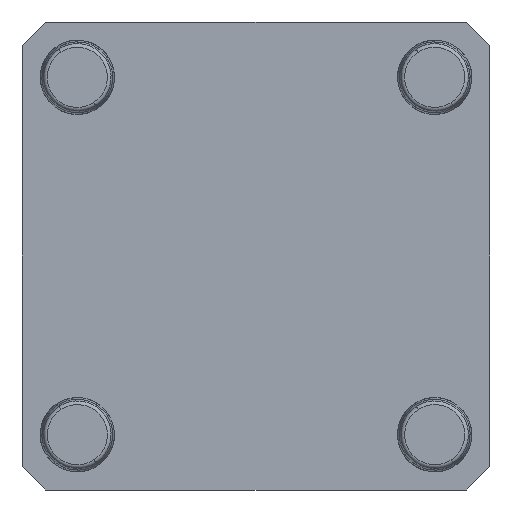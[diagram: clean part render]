
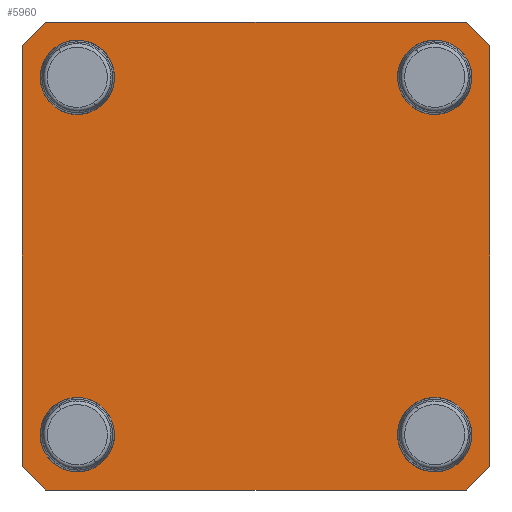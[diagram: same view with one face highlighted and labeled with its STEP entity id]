
A CAD part, front view. The second image highlights one B-rep face of the part: STEP entity #5960.
In plain terms, the highlighted planar face has unit normal (0, -1, 0).
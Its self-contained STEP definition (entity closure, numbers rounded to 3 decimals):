
#109 = CIRCLE ( 'NONE', #9183, 8.01 ) ;
#212 = VERTEX_POINT ( 'NONE', #5801 ) ;
#226 = EDGE_CURVE ( 'NONE', #8467, #7732, #4253, .T. ) ;
#416 = CARTESIAN_POINT ( 'NONE',  ( -48., 0., -56.01 ) ) ;
#462 = DIRECTION ( 'NONE',  ( 0., -1., 0. ) ) ;
#493 = VERTEX_POINT ( 'NONE', #6909 ) ;
#505 = AXIS2_PLACEMENT_3D ( 'NONE', #1493, #5432, #3940 ) ;
#558 = DIRECTION ( 'NONE',  ( 0., -1., 0. ) ) ;
#719 = EDGE_CURVE ( 'NONE', #493, #4081, #4240, .T. ) ;
#828 = DIRECTION ( 'NONE',  ( 0., -1., 0. ) ) ;
#970 = DIRECTION ( 'NONE',  ( 0., 0., -1. ) ) ;
#1001 = CARTESIAN_POINT ( 'NONE',  ( -62.865, 0., -56.515 ) ) ;
#1058 = ORIENTED_EDGE ( 'NONE', *, *, #4802, .F. ) ;
#1077 = ORIENTED_EDGE ( 'NONE', *, *, #2100, .F. ) ;
#1287 = DIRECTION ( 'NONE',  ( 0., 0., -1. ) ) ;
#1310 = VECTOR ( 'NONE', #3557, 1000. ) ;
#1449 = EDGE_CURVE ( 'NONE', #4081, #493, #8781, .T. ) ;
#1462 = AXIS2_PLACEMENT_3D ( 'NONE', #4750, #828, #3197 ) ;
#1493 = CARTESIAN_POINT ( 'NONE',  ( 48., 0., -48. ) ) ;
#1625 = CARTESIAN_POINT ( 'NONE',  ( 56.515, 0., -62.865 ) ) ;
#1682 = AXIS2_PLACEMENT_3D ( 'NONE', #5135, #558, #5108 ) ;
#1786 = DIRECTION ( 'NONE',  ( -0.707, 0., -0.707 ) ) ;
#1811 = DIRECTION ( 'NONE',  ( 0., 0., 1. ) ) ;
#1859 = PLANE ( 'NONE',  #5124 ) ;
#1861 = ORIENTED_EDGE ( 'NONE', *, *, #2886, .T. ) ;
#1959 = EDGE_CURVE ( 'NONE', #212, #5696, #7893, .T. ) ;
#2021 = CARTESIAN_POINT ( 'NONE',  ( -62.865, 0., -62.865 ) ) ;
#2058 = CARTESIAN_POINT ( 'NONE',  ( 48., 0., -56.01 ) ) ;
#2100 = EDGE_CURVE ( 'NONE', #2201, #8472, #3025, .T. ) ;
#2201 = VERTEX_POINT ( 'NONE', #416 ) ;
#2212 = LINE ( 'NONE', #7332, #6536 ) ;
#2242 = ORIENTED_EDGE ( 'NONE', *, *, #2472, .T. ) ;
#2312 = VECTOR ( 'NONE', #8825, 1000. ) ;
#2408 = LINE ( 'NONE', #2760, #1310 ) ;
#2472 = EDGE_CURVE ( 'NONE', #212, #8004, #3017, .T. ) ;
#2525 = DIRECTION ( 'NONE',  ( 0., -1., 0. ) ) ;
#2760 = CARTESIAN_POINT ( 'NONE',  ( -62.865, 0., -62.865 ) ) ;
#2849 = EDGE_CURVE ( 'NONE', #3459, #4962, #3278, .T. ) ;
#2884 = VECTOR ( 'NONE', #1786, 1000. ) ;
#2886 = EDGE_CURVE ( 'NONE', #3459, #5696, #7092, .T. ) ;
#3017 = LINE ( 'NONE', #1001, #2312 ) ;
#3019 = ORIENTED_EDGE ( 'NONE', *, *, #5498, .F. ) ;
#3025 = CIRCLE ( 'NONE', #7100, 8.01 ) ;
#3129 = CARTESIAN_POINT ( 'NONE',  ( -48., 0., 56.01 ) ) ;
#3197 = DIRECTION ( 'NONE',  ( 0., 0., 1. ) ) ;
#3222 = EDGE_LOOP ( 'NONE', ( #6141, #7055 ) ) ;
#3278 = LINE ( 'NONE', #8805, #9024 ) ;
#3334 = VECTOR ( 'NONE', #970, 1000. ) ;
#3459 = VERTEX_POINT ( 'NONE', #3976 ) ;
#3541 = FACE_BOUND ( 'NONE', #5851, .T. ) ;
#3557 = DIRECTION ( 'NONE',  ( -1., 0., 0. ) ) ;
#3566 = CARTESIAN_POINT ( 'NONE',  ( 62.865, 0., 56.515 ) ) ;
#3828 = ORIENTED_EDGE ( 'NONE', *, *, #226, .T. ) ;
#3940 = DIRECTION ( 'NONE',  ( 0., 0., -1. ) ) ;
#3976 = CARTESIAN_POINT ( 'NONE',  ( -56.515, 0., 62.865 ) ) ;
#4010 = EDGE_CURVE ( 'NONE', #5033, #4962, #2212, .T. ) ;
#4081 = VERTEX_POINT ( 'NONE', #2058 ) ;
#4154 = CARTESIAN_POINT ( 'NONE',  ( 48., 0., 48. ) ) ;
#4236 = CARTESIAN_POINT ( 'NONE',  ( 62.865, 0., -56.515 ) ) ;
#4240 = CIRCLE ( 'NONE', #5599, 8.01 ) ;
#4253 = LINE ( 'NONE', #7250, #5796 ) ;
#4379 = CARTESIAN_POINT ( 'NONE',  ( 48., 0., -48. ) ) ;
#4397 = FACE_BOUND ( 'NONE', #3222, .T. ) ;
#4439 = DIRECTION ( 'NONE',  ( 0., 0., 1. ) ) ;
#4495 = EDGE_LOOP ( 'NONE', ( #5665, #2242, #7600, #3828, #9307, #6848, #4904, #1861 ) ) ;
#4592 = EDGE_CURVE ( 'NONE', #8472, #2201, #9667, .T. ) ;
#4743 = EDGE_CURVE ( 'NONE', #5033, #7732, #9686, .T. ) ;
#4750 = CARTESIAN_POINT ( 'NONE',  ( -48., 0., -48. ) ) ;
#4802 = EDGE_CURVE ( 'NONE', #5772, #6608, #8720, .T. ) ;
#4836 = CARTESIAN_POINT ( 'NONE',  ( -48., 0., -39.99 ) ) ;
#4859 = CARTESIAN_POINT ( 'NONE',  ( -48., 0., -48. ) ) ;
#4904 = ORIENTED_EDGE ( 'NONE', *, *, #2849, .F. ) ;
#4962 = VERTEX_POINT ( 'NONE', #5779 ) ;
#5015 = CARTESIAN_POINT ( 'NONE',  ( 48., 0., 48. ) ) ;
#5033 = VERTEX_POINT ( 'NONE', #3566 ) ;
#5105 = CIRCLE ( 'NONE', #1682, 8.01 ) ;
#5108 = DIRECTION ( 'NONE',  ( 0., 0., -1. ) ) ;
#5124 = AXIS2_PLACEMENT_3D ( 'NONE', #8739, #8163, #9707 ) ;
#5135 = CARTESIAN_POINT ( 'NONE',  ( -48., 0., 48. ) ) ;
#5213 = FACE_BOUND ( 'NONE', #8632, .T. ) ;
#5227 = EDGE_LOOP ( 'NONE', ( #9396, #7857 ) ) ;
#5258 = DIRECTION ( 'NONE',  ( 0., -1., 0. ) ) ;
#5325 = VERTEX_POINT ( 'NONE', #6948 ) ;
#5432 = DIRECTION ( 'NONE',  ( 0., -1., 0. ) ) ;
#5498 = EDGE_CURVE ( 'NONE', #6608, #5772, #9544, .T. ) ;
#5599 = AXIS2_PLACEMENT_3D ( 'NONE', #4379, #462, #1287 ) ;
#5665 = ORIENTED_EDGE ( 'NONE', *, *, #1959, .F. ) ;
#5691 = DIRECTION ( 'NONE',  ( 0., -1., 0. ) ) ;
#5696 = VERTEX_POINT ( 'NONE', #7821 ) ;
#5724 = VERTEX_POINT ( 'NONE', #3129 ) ;
#5772 = VERTEX_POINT ( 'NONE', #6201 ) ;
#5779 = CARTESIAN_POINT ( 'NONE',  ( 56.515, 0., 62.865 ) ) ;
#5796 = VECTOR ( 'NONE', #8891, 1000. ) ;
#5801 = CARTESIAN_POINT ( 'NONE',  ( -62.865, 0., -56.515 ) ) ;
#5851 = EDGE_LOOP ( 'NONE', ( #1058, #3019 ) ) ;
#5960 = ADVANCED_FACE ( 'NONE', ( #3541, #5213, #4397, #6735, #6145 ), #1859, .F. ) ;
#6001 = CARTESIAN_POINT ( 'NONE',  ( -48., 0., 48. ) ) ;
#6141 = ORIENTED_EDGE ( 'NONE', *, *, #1449, .F. ) ;
#6145 = FACE_OUTER_BOUND ( 'NONE', #4495, .T. ) ;
#6201 = CARTESIAN_POINT ( 'NONE',  ( 48., 0., 39.99 ) ) ;
#6331 = VECTOR ( 'NONE', #7605, 1000. ) ;
#6536 = VECTOR ( 'NONE', #7307, 1000. ) ;
#6608 = VERTEX_POINT ( 'NONE', #9637 ) ;
#6703 = DIRECTION ( 'NONE',  ( 0., 0., -1. ) ) ;
#6735 = FACE_BOUND ( 'NONE', #5227, .T. ) ;
#6793 = ORIENTED_EDGE ( 'NONE', *, *, #4592, .F. ) ;
#6834 = DIRECTION ( 'NONE',  ( 0., -1., 0. ) ) ;
#6848 = ORIENTED_EDGE ( 'NONE', *, *, #4010, .T. ) ;
#6909 = CARTESIAN_POINT ( 'NONE',  ( 48., 0., -39.99 ) ) ;
#6948 = CARTESIAN_POINT ( 'NONE',  ( -48., 0., 39.99 ) ) ;
#7055 = ORIENTED_EDGE ( 'NONE', *, *, #719, .F. ) ;
#7070 = CARTESIAN_POINT ( 'NONE',  ( 62.865, 0., -62.865 ) ) ;
#7092 = LINE ( 'NONE', #9511, #2884 ) ;
#7100 = AXIS2_PLACEMENT_3D ( 'NONE', #4859, #5691, #9480 ) ;
#7135 = EDGE_CURVE ( 'NONE', #5325, #5724, #5105, .T. ) ;
#7250 = CARTESIAN_POINT ( 'NONE',  ( 56.515, 0., -62.865 ) ) ;
#7307 = DIRECTION ( 'NONE',  ( -0.707, 0., 0.707 ) ) ;
#7332 = CARTESIAN_POINT ( 'NONE',  ( 62.865, 0., 56.515 ) ) ;
#7600 = ORIENTED_EDGE ( 'NONE', *, *, #8782, .F. ) ;
#7605 = DIRECTION ( 'NONE',  ( 0., 0., 1. ) ) ;
#7732 = VERTEX_POINT ( 'NONE', #4236 ) ;
#7821 = CARTESIAN_POINT ( 'NONE',  ( -62.865, 0., 56.515 ) ) ;
#7857 = ORIENTED_EDGE ( 'NONE', *, *, #8900, .F. ) ;
#7893 = LINE ( 'NONE', #2021, #6331 ) ;
#8004 = VERTEX_POINT ( 'NONE', #9371 ) ;
#8163 = DIRECTION ( 'NONE',  ( 0., 1., 0. ) ) ;
#8166 = AXIS2_PLACEMENT_3D ( 'NONE', #4154, #2525, #1811 ) ;
#8467 = VERTEX_POINT ( 'NONE', #1625 ) ;
#8472 = VERTEX_POINT ( 'NONE', #4836 ) ;
#8632 = EDGE_LOOP ( 'NONE', ( #1077, #6793 ) ) ;
#8695 = DIRECTION ( 'NONE',  ( 1., 0., 0. ) ) ;
#8720 = CIRCLE ( 'NONE', #8166, 8.01 ) ;
#8739 = CARTESIAN_POINT ( 'NONE',  ( 0., 0., 0. ) ) ;
#8781 = CIRCLE ( 'NONE', #505, 8.01 ) ;
#8782 = EDGE_CURVE ( 'NONE', #8467, #8004, #2408, .T. ) ;
#8805 = CARTESIAN_POINT ( 'NONE',  ( -62.865, 0., 62.865 ) ) ;
#8825 = DIRECTION ( 'NONE',  ( 0.707, 0., -0.707 ) ) ;
#8891 = DIRECTION ( 'NONE',  ( 0.707, 0., 0.707 ) ) ;
#8900 = EDGE_CURVE ( 'NONE', #5724, #5325, #109, .T. ) ;
#9024 = VECTOR ( 'NONE', #8695, 1000. ) ;
#9183 = AXIS2_PLACEMENT_3D ( 'NONE', #6001, #6834, #6703 ) ;
#9307 = ORIENTED_EDGE ( 'NONE', *, *, #4743, .F. ) ;
#9333 = AXIS2_PLACEMENT_3D ( 'NONE', #5015, #5258, #4439 ) ;
#9371 = CARTESIAN_POINT ( 'NONE',  ( -56.515, 0., -62.865 ) ) ;
#9396 = ORIENTED_EDGE ( 'NONE', *, *, #7135, .F. ) ;
#9480 = DIRECTION ( 'NONE',  ( 0., 0., 1. ) ) ;
#9511 = CARTESIAN_POINT ( 'NONE',  ( -56.515, 0., 62.865 ) ) ;
#9544 = CIRCLE ( 'NONE', #9333, 8.01 ) ;
#9637 = CARTESIAN_POINT ( 'NONE',  ( 48., 0., 56.01 ) ) ;
#9667 = CIRCLE ( 'NONE', #1462, 8.01 ) ;
#9686 = LINE ( 'NONE', #7070, #3334 ) ;
#9707 = DIRECTION ( 'NONE',  ( 0., 0., 1. ) ) ;
